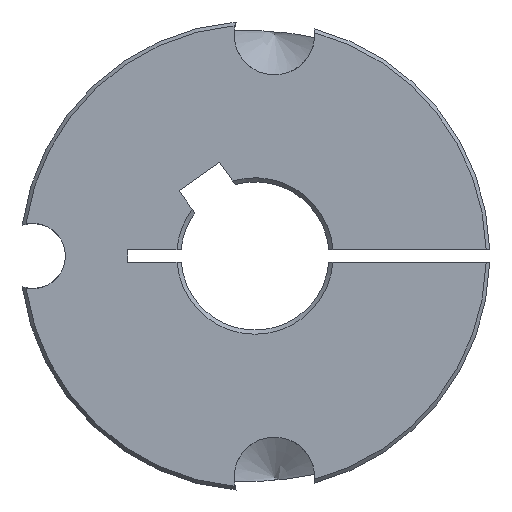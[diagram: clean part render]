
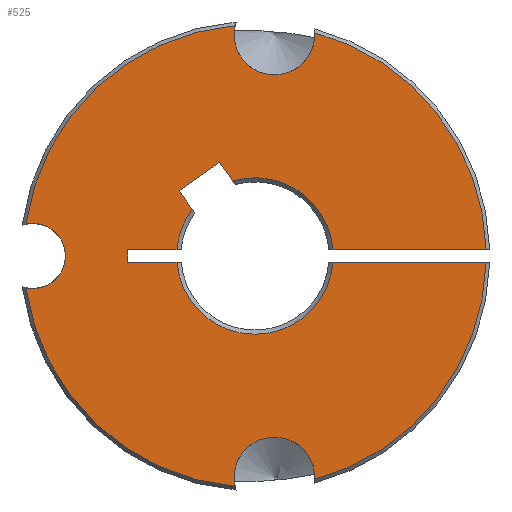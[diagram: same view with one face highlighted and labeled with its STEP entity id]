
A CAD part, front view. The second image highlights one B-rep face of the part: STEP entity #525.
In plain terms, the highlighted planar face has unit normal (0, -1, 0).
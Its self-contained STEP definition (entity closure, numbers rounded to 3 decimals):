
#35=LINE('',#773,#61);
#39=LINE('',#785,#65);
#40=LINE('',#787,#66);
#41=LINE('',#789,#67);
#42=LINE('',#793,#68);
#43=LINE('',#809,#69);
#44=LINE('',#813,#70);
#45=LINE('',#814,#71);
#61=VECTOR('',#623,5.995);
#65=VECTOR('',#629,2.786);
#66=VECTOR('',#630,6.);
#67=VECTOR('',#631,2.786);
#68=VECTOR('',#634,18.586);
#69=VECTOR('',#649,18.586);
#70=VECTOR('',#652,5.995);
#71=VECTOR('',#653,1.5);
#88=PLANE('',#559);
#99=FACE_OUTER_BOUND('',#129,.T.);
#129=EDGE_LOOP('',(#351,#352,#353,#354,#355,#356,#357,#358,#359,#360,#361,
#362,#363,#364,#365,#366,#367,#368));
#157=CIRCLE('',#556,9.5);
#159=CIRCLE('',#560,9.5);
#160=CIRCLE('',#561,28.067);
#161=CIRCLE('',#562,4.9);
#162=CIRCLE('',#563,28.067);
#163=CIRCLE('',#564,3.969);
#164=CIRCLE('',#565,28.067);
#165=CIRCLE('',#566,4.9);
#166=CIRCLE('',#567,28.067);
#167=CIRCLE('',#568,9.5);
#202=VERTEX_POINT('',#760);
#203=VERTEX_POINT('',#764);
#205=VERTEX_POINT('',#772);
#209=VERTEX_POINT('',#784);
#210=VERTEX_POINT('',#786);
#211=VERTEX_POINT('',#788);
#212=VERTEX_POINT('',#790);
#213=VERTEX_POINT('',#792);
#214=VERTEX_POINT('',#794);
#215=VERTEX_POINT('',#796);
#216=VERTEX_POINT('',#798);
#217=VERTEX_POINT('',#800);
#218=VERTEX_POINT('',#802);
#219=VERTEX_POINT('',#804);
#220=VERTEX_POINT('',#806);
#221=VERTEX_POINT('',#808);
#222=VERTEX_POINT('',#810);
#223=VERTEX_POINT('',#812);
#258=EDGE_CURVE('',#202,#203,#157,.T.);
#261=EDGE_CURVE('',#205,#203,#35,.T.);
#266=EDGE_CURVE('',#202,#209,#39,.T.);
#267=EDGE_CURVE('',#209,#210,#40,.T.);
#268=EDGE_CURVE('',#210,#211,#41,.T.);
#269=EDGE_CURVE('',#212,#211,#159,.T.);
#270=EDGE_CURVE('',#212,#213,#42,.T.);
#271=EDGE_CURVE('',#214,#213,#160,.T.);
#272=EDGE_CURVE('',#214,#215,#161,.T.);
#273=EDGE_CURVE('',#216,#215,#162,.T.);
#274=EDGE_CURVE('',#216,#217,#163,.T.);
#275=EDGE_CURVE('',#218,#217,#164,.T.);
#276=EDGE_CURVE('',#218,#219,#165,.T.);
#277=EDGE_CURVE('',#220,#219,#166,.T.);
#278=EDGE_CURVE('',#220,#221,#43,.T.);
#279=EDGE_CURVE('',#222,#221,#167,.T.);
#280=EDGE_CURVE('',#222,#223,#44,.T.);
#281=EDGE_CURVE('',#223,#205,#45,.T.);
#351=ORIENTED_EDGE('',*,*,#258,.F.);
#352=ORIENTED_EDGE('',*,*,#266,.T.);
#353=ORIENTED_EDGE('',*,*,#267,.T.);
#354=ORIENTED_EDGE('',*,*,#268,.T.);
#355=ORIENTED_EDGE('',*,*,#269,.F.);
#356=ORIENTED_EDGE('',*,*,#270,.T.);
#357=ORIENTED_EDGE('',*,*,#271,.F.);
#358=ORIENTED_EDGE('',*,*,#272,.T.);
#359=ORIENTED_EDGE('',*,*,#273,.F.);
#360=ORIENTED_EDGE('',*,*,#274,.T.);
#361=ORIENTED_EDGE('',*,*,#275,.F.);
#362=ORIENTED_EDGE('',*,*,#276,.T.);
#363=ORIENTED_EDGE('',*,*,#277,.F.);
#364=ORIENTED_EDGE('',*,*,#278,.T.);
#365=ORIENTED_EDGE('',*,*,#279,.F.);
#366=ORIENTED_EDGE('',*,*,#280,.T.);
#367=ORIENTED_EDGE('',*,*,#281,.T.);
#368=ORIENTED_EDGE('',*,*,#261,.T.);
#525=ADVANCED_FACE('',(#99),#88,.F.);
#556=AXIS2_PLACEMENT_3D('',#765,#617,#618);
#559=AXIS2_PLACEMENT_3D('',#783,#627,#628);
#560=AXIS2_PLACEMENT_3D('',#791,#632,#633);
#561=AXIS2_PLACEMENT_3D('',#795,#635,#636);
#562=AXIS2_PLACEMENT_3D('',#797,#637,#638);
#563=AXIS2_PLACEMENT_3D('',#799,#639,#640);
#564=AXIS2_PLACEMENT_3D('',#801,#641,#642);
#565=AXIS2_PLACEMENT_3D('',#803,#643,#644);
#566=AXIS2_PLACEMENT_3D('',#805,#645,#646);
#567=AXIS2_PLACEMENT_3D('',#807,#647,#648);
#568=AXIS2_PLACEMENT_3D('',#811,#650,#651);
#617=DIRECTION('center_axis',(0.,-1.,0.));
#618=DIRECTION('ref_axis',(-1.,0.,0.));
#623=DIRECTION('',(1.,0.,0.));
#627=DIRECTION('center_axis',(0.,1.,0.));
#628=DIRECTION('ref_axis',(0.,0.,1.));
#629=DIRECTION('',(-0.574,0.,0.819));
#630=DIRECTION('',(0.819,0.,0.574));
#631=DIRECTION('',(0.574,0.,-0.819));
#632=DIRECTION('center_axis',(0.,-1.,0.));
#633=DIRECTION('ref_axis',(1.,0.,0.));
#634=DIRECTION('',(1.,0.,0.));
#635=DIRECTION('center_axis',(0.,1.,0.));
#636=DIRECTION('ref_axis',(1.,0.,0.));
#637=DIRECTION('center_axis',(0.,1.,0.));
#638=DIRECTION('ref_axis',(1.,0.,0.));
#639=DIRECTION('center_axis',(0.,1.,0.));
#640=DIRECTION('ref_axis',(-1.,0.,0.));
#641=DIRECTION('center_axis',(0.,1.,0.));
#642=DIRECTION('ref_axis',(1.,0.,0.));
#643=DIRECTION('center_axis',(0.,1.,0.));
#644=DIRECTION('ref_axis',(-1.,0.,0.));
#645=DIRECTION('center_axis',(0.,1.,0.));
#646=DIRECTION('ref_axis',(1.,0.,0.));
#647=DIRECTION('center_axis',(0.,1.,0.));
#648=DIRECTION('ref_axis',(1.,0.,0.));
#649=DIRECTION('',(-1.,0.,0.));
#650=DIRECTION('center_axis',(0.,-1.,0.));
#651=DIRECTION('ref_axis',(-1.,0.,0.));
#652=DIRECTION('',(-1.,0.,0.));
#653=DIRECTION('',(0.,0.,1.));
#760=CARTESIAN_POINT('',(-7.628,0.,5.663));
#764=CARTESIAN_POINT('',(-9.47,0.,0.75));
#765=CARTESIAN_POINT('Origin',(0.,0.,0.));
#772=CARTESIAN_POINT('',(-15.465,0.,0.75));
#773=CARTESIAN_POINT('',(14.263,0.,0.75));
#783=CARTESIAN_POINT('Origin',(0.,0.,0.));
#784=CARTESIAN_POINT('',(-9.226,0.,7.945));
#785=CARTESIAN_POINT('',(-5.842,0.,3.112));
#786=CARTESIAN_POINT('',(-4.311,0.,11.387));
#787=CARTESIAN_POINT('',(-5.539,0.,10.526));
#788=CARTESIAN_POINT('',(-2.713,0.,9.104));
#789=CARTESIAN_POINT('',(0.024,0.,5.196));
#790=CARTESIAN_POINT('',(9.47,0.,0.75));
#791=CARTESIAN_POINT('Origin',(0.,0.,0.));
#792=CARTESIAN_POINT('',(28.057,0.,0.75));
#793=CARTESIAN_POINT('',(14.263,0.,0.75));
#794=CARTESIAN_POINT('',(7.247,0.,27.115));
#795=CARTESIAN_POINT('Origin',(0.,0.,0.));
#796=CARTESIAN_POINT('',(-2.428,0.,27.961));
#797=CARTESIAN_POINT('Origin',(2.352,0.,26.885));
#798=CARTESIAN_POINT('',(-27.796,0.,3.886));
#799=CARTESIAN_POINT('Origin',(0.,0.,0.));
#800=CARTESIAN_POINT('',(-27.796,0.,-3.886));
#801=CARTESIAN_POINT('Origin',(-26.988,0.,0.));
#802=CARTESIAN_POINT('',(-2.428,0.,-27.961));
#803=CARTESIAN_POINT('Origin',(0.,0.,0.));
#804=CARTESIAN_POINT('',(7.247,0.,-27.115));
#805=CARTESIAN_POINT('Origin',(2.352,0.,-26.885));
#806=CARTESIAN_POINT('',(28.057,0.,-0.75));
#807=CARTESIAN_POINT('Origin',(0.,0.,0.));
#808=CARTESIAN_POINT('',(9.47,0.,-0.75));
#809=CARTESIAN_POINT('',(-7.733,0.,-0.75));
#810=CARTESIAN_POINT('',(-9.47,0.,-0.75));
#811=CARTESIAN_POINT('Origin',(0.,0.,0.));
#812=CARTESIAN_POINT('',(-15.465,0.,-0.75));
#813=CARTESIAN_POINT('',(-7.733,0.,-0.75));
#814=CARTESIAN_POINT('',(-15.465,0.,0.375));
